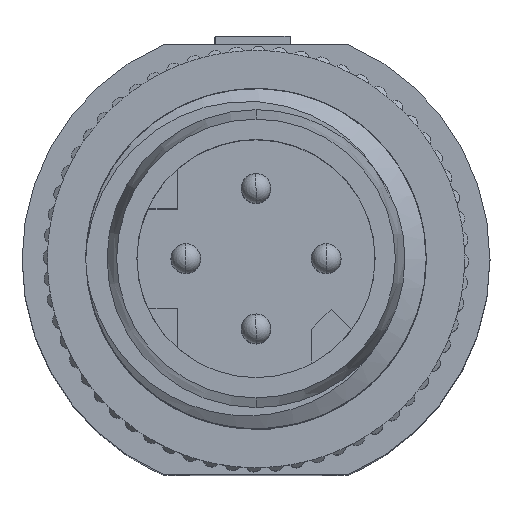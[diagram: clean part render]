
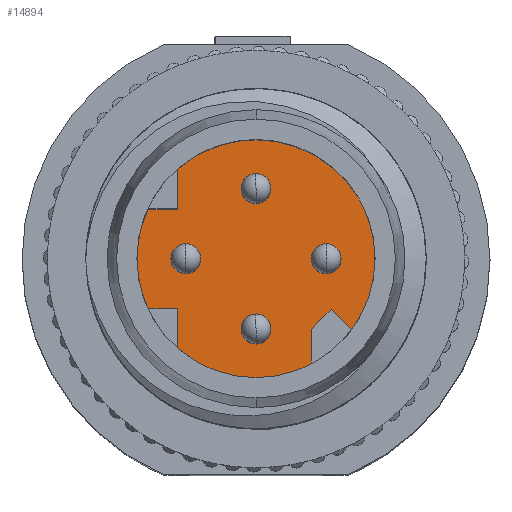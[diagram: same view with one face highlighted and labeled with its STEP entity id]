
A CAD part, top view. The second image highlights one B-rep face of the part: STEP entity #14894.
In plain terms, the highlighted planar face has unit normal (0, 0, 1).
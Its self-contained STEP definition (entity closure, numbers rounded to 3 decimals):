
#5766=CARTESIAN_POINT('',(-1.65,0.,11.8));
#5767=DIRECTION('',(0.,0.,1.));
#5768=DIRECTION('',(0.,1.,0.));
#5769=AXIS2_PLACEMENT_3D('',#5766,#5767,#5768);
#5771=CARTESIAN_POINT('',(-1.65,0.,11.8));
#5772=DIRECTION('',(0.,0.,1.));
#5773=DIRECTION('',(0.,-1.,0.));
#5774=AXIS2_PLACEMENT_3D('',#5771,#5772,#5773);
#5776=CARTESIAN_POINT('',(0.,1.65,11.8));
#5777=DIRECTION('',(0.,0.,1.));
#5778=DIRECTION('',(0.,1.,0.));
#5779=AXIS2_PLACEMENT_3D('',#5776,#5777,#5778);
#5781=CARTESIAN_POINT('',(0.,1.65,11.8));
#5782=DIRECTION('',(0.,0.,1.));
#5783=DIRECTION('',(0.,-1.,0.));
#5784=AXIS2_PLACEMENT_3D('',#5781,#5782,#5783);
#5786=CARTESIAN_POINT('',(0.,-1.65,11.8));
#5787=DIRECTION('',(0.,0.,1.));
#5788=DIRECTION('',(0.,1.,0.));
#5789=AXIS2_PLACEMENT_3D('',#5786,#5787,#5788);
#5791=CARTESIAN_POINT('',(0.,-1.65,11.8));
#5792=DIRECTION('',(0.,0.,1.));
#5793=DIRECTION('',(0.,-1.,0.));
#5794=AXIS2_PLACEMENT_3D('',#5791,#5792,#5793);
#5796=CARTESIAN_POINT('',(1.65,0.,11.8));
#5797=DIRECTION('',(0.,0.,1.));
#5798=DIRECTION('',(0.,1.,0.));
#5799=AXIS2_PLACEMENT_3D('',#5796,#5797,#5798);
#5801=CARTESIAN_POINT('',(1.65,0.,11.8));
#5802=DIRECTION('',(0.,0.,1.));
#5803=DIRECTION('',(0.,-1.,0.));
#5804=AXIS2_PLACEMENT_3D('',#5801,#5802,#5803);
#5806=DIRECTION('',(0.,1.,0.));
#5807=VECTOR('',#5806,0.927);
#5808=CARTESIAN_POINT('',(-1.85,-2.102,11.8));
#5809=LINE('',#5808,#5807);
#5810=DIRECTION('',(-1.,0.,0.));
#5811=VECTOR('',#5810,0.692);
#5812=CARTESIAN_POINT('',(-1.85,-1.175,11.8));
#5813=LINE('',#5812,#5811);
#5814=CARTESIAN_POINT('',(0.,0.,11.8));
#5815=DIRECTION('',(0.,0.,1.));
#5816=DIRECTION('',(-0.908,0.42,0.));
#5817=AXIS2_PLACEMENT_3D('',#5814,#5815,#5816);
#5819=DIRECTION('',(1.,0.,0.));
#5820=VECTOR('',#5819,0.692);
#5821=CARTESIAN_POINT('',(-2.542,1.175,11.8));
#5822=LINE('',#5821,#5820);
#5823=DIRECTION('',(0.,1.,0.));
#5824=VECTOR('',#5823,0.927);
#5825=CARTESIAN_POINT('',(-1.85,1.175,11.8));
#5826=LINE('',#5825,#5824);
#5827=CARTESIAN_POINT('',(0.,0.,11.8));
#5828=DIRECTION('',(0.,0.,1.));
#5829=DIRECTION('',(0.,1.,0.));
#5830=AXIS2_PLACEMENT_3D('',#5827,#5828,#5829);
#5832=CARTESIAN_POINT('',(0.,0.,11.8));
#5833=DIRECTION('',(0.,0.,1.));
#5834=DIRECTION('',(0.802,-0.597,0.));
#5835=AXIS2_PLACEMENT_3D('',#5832,#5833,#5834);
#5837=DIRECTION('',(-0.707,0.707,0.));
#5838=VECTOR('',#5837,0.678);
#5839=CARTESIAN_POINT('',(2.246,-1.672,11.8));
#5840=LINE('',#5839,#5838);
#5841=DIRECTION('',(-0.707,-0.707,0.));
#5842=VECTOR('',#5841,0.66);
#5843=CARTESIAN_POINT('',(1.767,-1.193,11.8));
#5844=LINE('',#5843,#5842);
#5845=DIRECTION('',(0.,-1.,0.));
#5846=VECTOR('',#5845,0.82);
#5847=CARTESIAN_POINT('',(1.3,-1.66,11.8));
#5848=LINE('',#5847,#5846);
#5849=CARTESIAN_POINT('',(0.,0.,11.8));
#5850=DIRECTION('',(0.,0.,1.));
#5851=DIRECTION('',(0.,-1.,0.));
#5852=AXIS2_PLACEMENT_3D('',#5849,#5850,#5851);
#5854=CARTESIAN_POINT('',(0.,0.,11.8));
#5855=DIRECTION('',(0.,0.,1.));
#5856=DIRECTION('',(-0.661,-0.751,0.));
#5857=AXIS2_PLACEMENT_3D('',#5854,#5855,#5856);
#8042=CARTESIAN_POINT('',(0.,-2.8,11.8));
#8044=VERTEX_POINT('',#8042);
#8046=CARTESIAN_POINT('',(0.,2.8,11.8));
#8048=VERTEX_POINT('',#8046);
#8082=CARTESIAN_POINT('',(2.246,-1.672,11.8));
#8083=VERTEX_POINT('',#8082);
#8084=CARTESIAN_POINT('',(1.3,-2.48,11.8));
#8085=VERTEX_POINT('',#8084);
#8094=CARTESIAN_POINT('',(-1.85,-2.102,11.8));
#8095=VERTEX_POINT('',#8094);
#8096=CARTESIAN_POINT('',(-2.542,-1.175,11.8));
#8097=VERTEX_POINT('',#8096);
#8098=CARTESIAN_POINT('',(-2.542,1.175,11.8));
#8099=VERTEX_POINT('',#8098);
#8100=CARTESIAN_POINT('',(-1.85,2.102,11.8));
#8101=VERTEX_POINT('',#8100);
#8102=CARTESIAN_POINT('',(-1.65,0.35,11.8));
#8103=CARTESIAN_POINT('',(-1.65,-0.35,11.8));
#8104=VERTEX_POINT('',#8102);
#8105=VERTEX_POINT('',#8103);
#8106=CARTESIAN_POINT('',(0.,2.,11.8));
#8107=CARTESIAN_POINT('',(0.,1.3,11.8));
#8108=VERTEX_POINT('',#8106);
#8109=VERTEX_POINT('',#8107);
#8110=CARTESIAN_POINT('',(0.,-1.3,11.8));
#8111=CARTESIAN_POINT('',(0.,-2.,11.8));
#8112=VERTEX_POINT('',#8110);
#8113=VERTEX_POINT('',#8111);
#8114=CARTESIAN_POINT('',(1.65,0.35,11.8));
#8115=CARTESIAN_POINT('',(1.65,-0.35,11.8));
#8116=VERTEX_POINT('',#8114);
#8117=VERTEX_POINT('',#8115);
#8118=CARTESIAN_POINT('',(-1.85,-1.175,11.8));
#8119=VERTEX_POINT('',#8118);
#8120=CARTESIAN_POINT('',(1.767,-1.193,11.8));
#8121=VERTEX_POINT('',#8120);
#8122=CARTESIAN_POINT('',(1.3,-1.66,11.8));
#8123=VERTEX_POINT('',#8122);
#8124=CARTESIAN_POINT('',(-1.85,1.175,11.8));
#8125=VERTEX_POINT('',#8124);
#14847=CARTESIAN_POINT('',(0.,0.,11.8));
#14848=DIRECTION('',(0.,0.,1.));
#14849=DIRECTION('',(0.,-1.,0.));
#14850=AXIS2_PLACEMENT_3D('',#14847,#14848,#14849);
#14851=PLANE('',#14850);
#14853=ORIENTED_EDGE('',*,*,#14852,.T.);
#14855=ORIENTED_EDGE('',*,*,#14854,.T.);
#14856=ORIENTED_EDGE('',*,*,#14722,.F.);
#14858=ORIENTED_EDGE('',*,*,#14857,.T.);
#14860=ORIENTED_EDGE('',*,*,#14859,.T.);
#14861=ORIENTED_EDGE('',*,*,#14737,.F.);
#14862=ORIENTED_EDGE('',*,*,#14809,.F.);
#14863=ORIENTED_EDGE('',*,*,#14829,.T.);
#14864=ORIENTED_EDGE('',*,*,#14839,.T.);
#14865=ORIENTED_EDGE('',*,*,#14793,.T.);
#14866=ORIENTED_EDGE('',*,*,#14814,.F.);
#14867=ORIENTED_EDGE('',*,*,#14730,.F.);
#14868=EDGE_LOOP('',(#14853,#14855,#14856,#14858,#14860,#14861,#14862,#14863,
#14864,#14865,#14866,#14867));
#14869=FACE_OUTER_BOUND('',#14868,.F.);
#14871=ORIENTED_EDGE('',*,*,#14870,.T.);
#14873=ORIENTED_EDGE('',*,*,#14872,.T.);
#14874=EDGE_LOOP('',(#14871,#14873));
#14875=FACE_BOUND('',#14874,.F.);
#14877=ORIENTED_EDGE('',*,*,#14876,.T.);
#14879=ORIENTED_EDGE('',*,*,#14878,.T.);
#14880=EDGE_LOOP('',(#14877,#14879));
#14881=FACE_BOUND('',#14880,.F.);
#14883=ORIENTED_EDGE('',*,*,#14882,.T.);
#14885=ORIENTED_EDGE('',*,*,#14884,.T.);
#14886=EDGE_LOOP('',(#14883,#14885));
#14887=FACE_BOUND('',#14886,.F.);
#14889=ORIENTED_EDGE('',*,*,#14888,.T.);
#14891=ORIENTED_EDGE('',*,*,#14890,.T.);
#14892=EDGE_LOOP('',(#14889,#14891));
#14893=FACE_BOUND('',#14892,.F.);
#5770=CIRCLE('',#5769,0.35);
#5775=CIRCLE('',#5774,0.35);
#5780=CIRCLE('',#5779,0.35);
#5785=CIRCLE('',#5784,0.35);
#5790=CIRCLE('',#5789,0.35);
#5795=CIRCLE('',#5794,0.35);
#5800=CIRCLE('',#5799,0.35);
#5805=CIRCLE('',#5804,0.35);
#5818=CIRCLE('',#5817,2.8);
#5831=CIRCLE('',#5830,2.8);
#5836=CIRCLE('',#5835,2.8);
#5853=CIRCLE('',#5852,2.8);
#5858=CIRCLE('',#5857,2.8);
#14722=EDGE_CURVE('',#8099,#8097,#5818,.T.);
#14730=EDGE_CURVE('',#8095,#8044,#5858,.T.);
#14737=EDGE_CURVE('',#8048,#8101,#5831,.T.);
#14793=EDGE_CURVE('',#8123,#8085,#5848,.T.);
#14809=EDGE_CURVE('',#8083,#8048,#5836,.T.);
#14814=EDGE_CURVE('',#8044,#8085,#5853,.T.);
#14829=EDGE_CURVE('',#8083,#8121,#5840,.T.);
#14839=EDGE_CURVE('',#8121,#8123,#5844,.T.);
#14852=EDGE_CURVE('',#8095,#8119,#5809,.T.);
#14854=EDGE_CURVE('',#8119,#8097,#5813,.T.);
#14857=EDGE_CURVE('',#8099,#8125,#5822,.T.);
#14859=EDGE_CURVE('',#8125,#8101,#5826,.T.);
#14870=EDGE_CURVE('',#8108,#8109,#5780,.T.);
#14872=EDGE_CURVE('',#8109,#8108,#5785,.T.);
#14876=EDGE_CURVE('',#8112,#8113,#5790,.T.);
#14878=EDGE_CURVE('',#8113,#8112,#5795,.T.);
#14882=EDGE_CURVE('',#8116,#8117,#5800,.T.);
#14884=EDGE_CURVE('',#8117,#8116,#5805,.T.);
#14888=EDGE_CURVE('',#8104,#8105,#5770,.T.);
#14890=EDGE_CURVE('',#8105,#8104,#5775,.T.);
#14894=ADVANCED_FACE('',(#14869,#14875,#14881,#14887,#14893),#14851,.T.);
